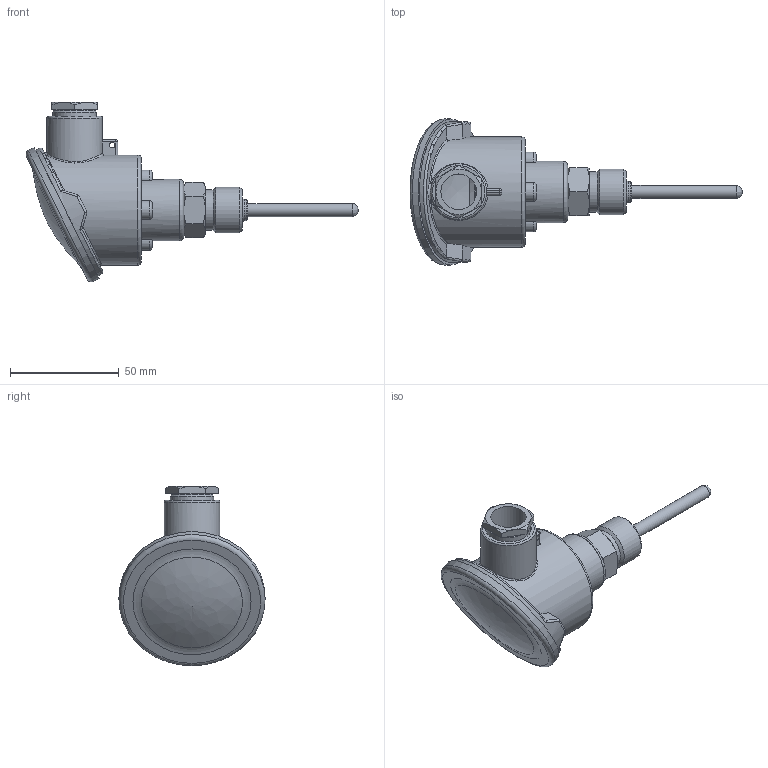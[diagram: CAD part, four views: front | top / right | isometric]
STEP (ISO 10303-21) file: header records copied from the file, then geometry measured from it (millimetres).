
FILE_DESCRIPTION( ( 'Unknown' ), '1' );
FILE_NAME( 'F:/U_Proces/dokumentation new/Mechanical parts/7000 3D Step filer/7000-/7000209/TCR6-1720.301A.1012.0510.0070.stp', 'Unknown', ( 'Unknown' ), ( 'Unknown' ), 'PSStep 13.0', 'Unknown', ' ' );
FILE_SCHEMA( ( 'AUTOMOTIVE_DESIGN { 1 0 10303 214 1 1 1 1 }' ) );
Length unit declared in the file: millimetre
Products named in the file (1): 2100115
Bounding box: 152.35 x 67 x 82.39 mm (x, y, z)
Surface area: 35427.8 mm2 (no closed solid volume)
Topology: 0 solids, 141 shells, 141 faces, 604 edges, 554 vertices
Faces by surface type: plane 55, cylinder 33, torus 17, bspline 17, cone 13, sphere 4, revolution 2
Full cylindrical faces by diameter (mm): 2.5 x1, 4 x1, 6 x2, 8 x1, 8.1 x1, 9 x1, 9.6 x1, 11.2 x1, 13.1 x1, 13.16 x1, 15.5 x1, 16.4 x1, 18.5 x1, 20 x1, 20.96 x1, 21 x1, 25.5 x1, 28.2 x1, 47 x1, 50 x1, 50.5 x1, 64.5 x1, 67 x1
Entity records: 9473 total; most frequent: CARTESIAN_POINT 4239, DIRECTION 840, ORIENTED_EDGE 528, EDGE_CURVE 528, VERTEX_POINT 528, AXIS2_PLACEMENT_3D 369, CIRCLE 238, FACE_BOUND 210
